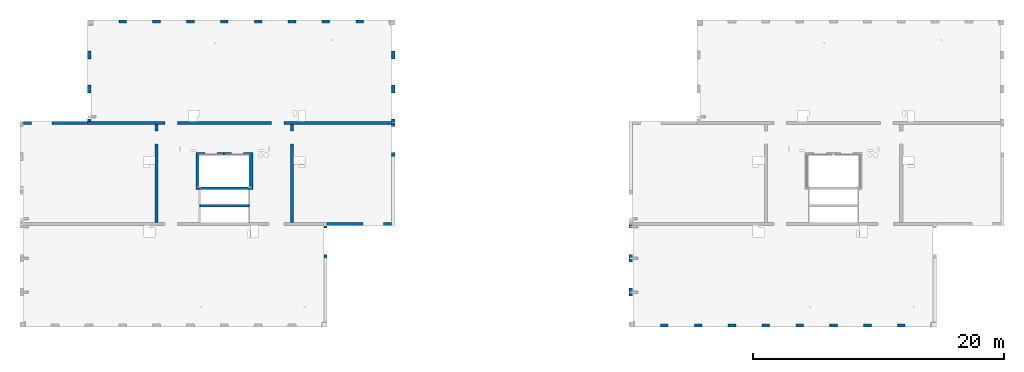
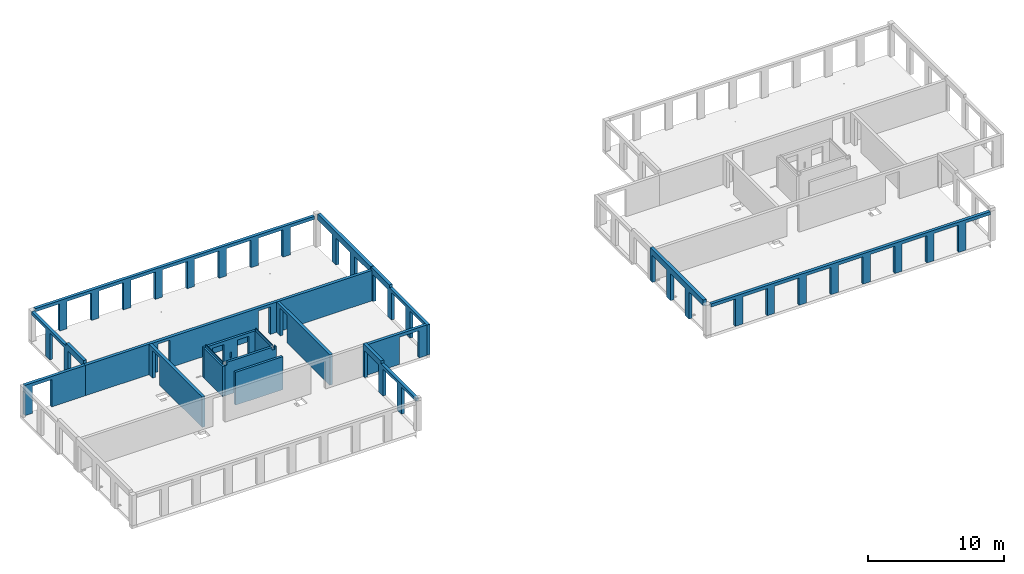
# One storey, part 3 of 8: 19 walls, 47 openings.
"""IFC2X3 building model written with IfcOpenShell, lengths in millimetres."""

from ifc_helpers import new_model, entity, si_unit, converted_unit, derived_unit, direction, frame, frame_2d, origin, origin_2d_with_axis, place, context, subcontext, project, spatial, rectangle, extrude, material, layer, layer_set, layer_usage, type_object, element, save


model = new_model("IFC2X3")

# Units and contexts
model_context = context("Model", 3, precision=0.01, world=origin(), true_north=direction((6.12303176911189e-17, 1.0)))
body_context = subcontext(model_context, "Body", "Model", "MODEL_VIEW")
ifc_project = project(units=[si_unit("LENGTHUNIT", "METRE", prefix="MILLI"), si_unit("AREAUNIT", "SQUARE_METRE"), si_unit("VOLUMEUNIT", "CUBIC_METRE"), converted_unit("PLANEANGLEUNIT", "DEGREE", entity("IfcRatioMeasure", 0.0174532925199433), si_unit("PLANEANGLEUNIT", "RADIAN"), dimensions=[0, 0, 0, 0, 0, 0, 0]), si_unit("MASSUNIT", "GRAM", prefix="KILO"), derived_unit("MASSDENSITYUNIT", [(si_unit("MASSUNIT", "GRAM", prefix="KILO"), 1), (si_unit("LENGTHUNIT", "METRE"), -3)]), si_unit("TIMEUNIT", "SECOND"), si_unit("FREQUENCYUNIT", "HERTZ"), si_unit("THERMODYNAMICTEMPERATUREUNIT", "DEGREE_CELSIUS"), derived_unit("THERMALTRANSMITTANCEUNIT", [(si_unit("MASSUNIT", "GRAM", prefix="KILO"), 1), (si_unit("THERMODYNAMICTEMPERATUREUNIT", "KELVIN"), -1), (si_unit("TIMEUNIT", "SECOND"), -3)]), derived_unit("VOLUMETRICFLOWRATEUNIT", [(si_unit("LENGTHUNIT", "METRE"), 3), (si_unit("TIMEUNIT", "SECOND"), -1)]), si_unit("ELECTRICCURRENTUNIT", "AMPERE"), si_unit("ELECTRICVOLTAGEUNIT", "VOLT"), si_unit("POWERUNIT", "WATT"), si_unit("FORCEUNIT", "NEWTON", prefix="KILO"), si_unit("ILLUMINANCEUNIT", "LUX"), si_unit("LUMINOUSFLUXUNIT", "LUMEN"), si_unit("LUMINOUSINTENSITYUNIT", "CANDELA"), derived_unit("USERDEFINED", [(si_unit("MASSUNIT", "GRAM", prefix="KILO"), -1), (si_unit("LENGTHUNIT", "METRE"), -2), (si_unit("TIMEUNIT", "SECOND"), 3), (si_unit("LUMINOUSFLUXUNIT", "LUMEN"), 1)]), derived_unit("LINEARVELOCITYUNIT", [(si_unit("LENGTHUNIT", "METRE"), 1), (si_unit("TIMEUNIT", "SECOND"), -1)]), si_unit("PRESSUREUNIT", "PASCAL"), derived_unit("USERDEFINED", [(si_unit("LENGTHUNIT", "METRE"), -2), (si_unit("MASSUNIT", "GRAM", prefix="KILO"), 1), (si_unit("TIMEUNIT", "SECOND"), -2)])], contexts=[model_context])

# Site, building, storey
site_placement = place(None, origin())
site = spatial("IfcSite", under=ifc_project, at=site_placement, Name="Default", CompositionType="ELEMENT")
building_placement = place(site_placement, origin())
building = spatial("IfcBuilding", under=site, at=building_placement, Name="niet gebruiken", CompositionType="ELEMENT")
storey_placement = place(building_placement, frame((0.0, 0.0, 51210.0)))
storey = spatial("IfcBuildingStorey", under=building, at=storey_placement, Name="17 zeventiende verdieping", CompositionType="ELEMENT", Elevation=51210.0)

# Wall, opening
ifc_material_1 = material(Name="NLRS_f2_beton ihwg")
ifc_layer_1 = layer(ifc_material_1, 250.0)
ifc_layer_set_1 = layer_set([ifc_layer_1], Name="Basic Wall:NLRS_22.21_WA_beton ihwg d=250_gen")
ifc_layer_usage_1 = layer_usage(ifc_layer_set_1, "AXIS2", "NEGATIVE", 125.0)
wall_type_1 = type_object("IfcWallType", Name="Basic Wall:NLRS_22.21_WA_beton ihwg d=250_gen", PredefinedType="STANDARD", material=ifc_layer_set_1)
wall_1_placement = place(storey_placement, frame((27170.0, 45031.0, -90.0)))
wall_1 = element("IfcWallStandardCase", 1, at=wall_1_placement, inside=storey, type_object=wall_type_1, material=ifc_layer_usage_1, Name="Basic Wall:NLRS_22.21_WA_beton ihwg d=250_gen", ObjectType="Basic Wall:NLRS_22.21_WA_beton ihwg d=250_gen", context=body_context, shape_type="SweptSolid", body=[
    extrude(rectangle(XDim=5130.0, YDim=249.999999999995, at=frame_2d((2565.0, 0.0), x_axis=(-1.0, 0.0))), origin(), (0.0, 0.0, 1.0), 2719.99999999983),
])
opening_1_placement = place(wall_1_placement, origin())
element("IfcOpeningElement", 2, at=opening_1_placement, cuts=wall_1, Name="Basic Wall:NLRS_22.21_WA_beton ihwg d=250_gen", ObjectType="Opening", context=body_context, shape_type="SweptSolid", body=[
    extrude(rectangle(XDim=2440.0, YDim=1640.0, at=origin_2d_with_axis()), frame((1460.0, -1649.0, 1220.0), z_axis=(0.0, 1.0, 0.0), x_axis=(0.0, 0.0, 1.0)), (0.0, 0.0, 1.0), 3048.0),
])

ifc_layer_usage_2 = layer_usage(ifc_layer_set_1, "AXIS2", "NEGATIVE", 125.0)
wall_2_placement = place(storey_placement, frame((37800.0, 44906.0, -90.0), z_axis=(0.0, 0.0, 1.0), x_axis=(0.0, -1.0, 0.0)))
wall_2 = element("IfcWallStandardCase", 3, at=wall_2_placement, inside=storey, type_object=wall_type_1, material=ifc_layer_usage_2, Name="Basic Wall:NLRS_22.21_WA_beton ihwg d=250_gen", ObjectType="Basic Wall:NLRS_22.21_WA_beton ihwg d=250_gen", context=body_context, shape_type="SweptSolid", body=[
    extrude(rectangle(XDim=7799.99999999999, YDim=250.000000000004, at=frame_2d((3900.0, 0.0), x_axis=(-1.0, 0.0))), origin(), (0.0, 0.0, 1.0), 2719.99999999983),
])
opening_2_placement = place(wall_2_placement, origin())
element("IfcOpeningElement", 4, at=opening_2_placement, cuts=wall_2, Name="Basic Wall:NLRS_22.21_WA_beton ihwg d=250_gen", ObjectType="Opening", context=body_context, shape_type="SweptSolid", body=[
    extrude(rectangle(XDim=2470.0, YDim=1006.0, at=frame_2d((4.43378667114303e-12, 0.0), x_axis=(1.0, 0.0))), frame((1027.0, -1649.0, 1235.0), z_axis=(0.0, 1.0, 0.0), x_axis=(0.0, 0.0, 1.0)), (0.0, 0.0, 1.0), 3048.0),
])

ifc_layer_usage_3 = layer_usage(ifc_layer_set_1, "AXIS2", "NEGATIVE", 125.0)
wall_3_placement = place(storey_placement, frame((48600.0, 44906.0, -90.0), z_axis=(0.0, 0.0, 1.0), x_axis=(0.0, -1.0, 0.0)))
wall_3 = element("IfcWallStandardCase", 5, at=wall_3_placement, inside=storey, type_object=wall_type_1, material=ifc_layer_usage_3, Name="Basic Wall:NLRS_22.21_WA_beton ihwg d=250_gen", ObjectType="Basic Wall:NLRS_22.21_WA_beton ihwg d=250_gen", context=body_context, shape_type="SweptSolid", body=[
    extrude(rectangle(XDim=7799.99999999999, YDim=249.999999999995, at=frame_2d((3900.0, 0.0), x_axis=(-1.0, 0.0))), origin(), (0.0, 0.0, 1.0), 2719.99999999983),
])
opening_3_placement = place(wall_3_placement, origin())
element("IfcOpeningElement", 6, at=opening_3_placement, cuts=wall_3, Name="Basic Wall:NLRS_22.21_WA_beton ihwg d=250_gen", ObjectType="Opening", context=body_context, shape_type="SweptSolid", body=[
    extrude(rectangle(XDim=2470.0, YDim=1006.0, at=frame_2d((-4.43378667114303e-12, 0.0), x_axis=(1.0, 0.0))), frame((1027.0, -1649.0, 1235.0), z_axis=(0.0, 1.0, 0.0), x_axis=(0.0, 0.0, 1.0)), (0.0, 0.0, 1.0), 3048.0),
])

# Wall, openings
ifc_layer_usage_4 = layer_usage(ifc_layer_set_1, "AXIS2", "NEGATIVE", 125.0)
wall_4_placement = place(storey_placement, frame((32300.0, 45031.0, -90.0)))
wall_4 = element("IfcWallStandardCase", 7, at=wall_4_placement, inside=storey, type_object=wall_type_1, material=ifc_layer_usage_4, Name="Basic Wall:NLRS_22.21_WA_beton ihwg d=250_gen", ObjectType="Basic Wall:NLRS_22.21_WA_beton ihwg d=250_gen", context=body_context, shape_type="SweptSolid", body=[
    extrude(rectangle(XDim=24250.0, YDim=249.999999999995, at=frame_2d((12125.0, 0.0), x_axis=(-1.0, 0.0))), origin(), (0.0, 0.0, 1.0), 2719.99999999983),
])
opening_4_placement = place(wall_4_placement, origin())
element("IfcOpeningElement", 8, at=opening_4_placement, cuts=wall_4, Name="Basic Wall:NLRS_22.21_WA_beton ihwg d=250_gen", ObjectType="Opening", context=body_context, shape_type="SweptSolid", body=[
    extrude(rectangle(XDim=2470.0, YDim=1006.0, at=frame_2d((4.43378667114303e-12, 0.0), x_axis=(1.0, 0.0))), frame((15148.0, -1649.0, 1235.0), z_axis=(0.0, 1.0, 0.0), x_axis=(0.0, 0.0, 1.0)), (0.0, 0.0, 1.0), 3048.0),
])
opening_5_placement = place(wall_4_placement, origin())
element("IfcOpeningElement", 9, at=opening_5_placement, cuts=wall_4, Name="Basic Wall:NLRS_22.21_WA_beton ihwg d=250_gen", ObjectType="Opening", context=body_context, shape_type="SweptSolid", body=[
    extrude(rectangle(XDim=2470.0, YDim=1006.0, at=frame_2d((4.43378667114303e-12, 2.1600499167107e-12), x_axis=(1.0, 0.0))), frame((6652.0, -1649.0, 1235.0), z_axis=(0.0, 1.0, 0.0), x_axis=(0.0, 0.0, 1.0)), (0.0, 0.0, 1.0), 3048.0),
])

# Wall, opening
ifc_layer_usage_5 = layer_usage(ifc_layer_set_1, "AXIS2", "NEGATIVE", 125.0)
wall_5_placement = place(storey_placement, frame((51400.0, 36981.0, -90.0)))
wall_5 = element("IfcWallStandardCase", 10, at=wall_5_placement, inside=storey, type_object=wall_type_1, material=ifc_layer_usage_5, Name="Basic Wall:NLRS_22.21_WA_beton ihwg d=250_gen", ObjectType="Basic Wall:NLRS_22.21_WA_beton ihwg d=250_gen", context=body_context, shape_type="SweptSolid", body=[
    extrude(rectangle(XDim=5150.0, YDim=250.000000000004, at=frame_2d((2575.0, 0.0), x_axis=(-1.0, 0.0))), origin(), (0.0, 0.0, 1.0), 2719.99999999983),
])
opening_6_placement = place(wall_5_placement, origin())
element("IfcOpeningElement", 11, at=opening_6_placement, cuts=wall_5, Name="Basic Wall:NLRS_22.21_WA_beton ihwg d=250_gen", ObjectType="Opening", context=body_context, shape_type="SweptSolid", body=[
    extrude(rectangle(XDim=2440.0, YDim=1640.0, at=frame_2d((-4.37694325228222e-12, 0.0), x_axis=(0.0, 1.0))), frame((3670.0, -1399.0, 1220.0), z_axis=(0.0, 1.0, 0.0), x_axis=(-1.0, 0.0, 0.0)), (0.0, 0.0, 1.0), 3048.0),
])

# Wall, openings
ifc_material_2 = material(Name="NLRS_f2_beton prefab")
ifc_layer_2 = layer(ifc_material_2, 250.0)
ifc_layer_set_2 = layer_set([ifc_layer_2], Name="Basic Wall:NLRS_21.21_WA_beton prefab d=250_gen")
ifc_layer_usage_6 = layer_usage(ifc_layer_set_2, "AXIS2", "NEGATIVE", 125.0)
wall_type_2 = type_object("IfcWallType", Name="Basic Wall:NLRS_21.21_WA_beton prefab d=250_gen", PredefinedType="STANDARD", material=ifc_layer_set_2)
wall_6_placement = place(storey_placement, frame((32425.0, 52846.0, -70.0), z_axis=(0.0, 0.0, 1.0), x_axis=(0.0, -1.0, 0.0)))
wall_6 = element("IfcWallStandardCase", 12, at=wall_6_placement, inside=storey, type_object=wall_type_2, material=ifc_layer_usage_6, Name="Basic Wall:NLRS_21.21_WA_beton prefab d=250_gen", ObjectType="Basic Wall:NLRS_21.21_WA_beton prefab d=250_gen", context=body_context, shape_type="SweptSolid", body=[
    extrude(rectangle(XDim=7670.00000000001, YDim=250.000000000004, at=frame_2d((3835.0, 0.0), x_axis=(-1.0, 0.0))), origin(), (0.0, 0.0, 1.0), 2949.99999999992),
])
opening_7_placement = place(wall_6_placement, origin())
element("IfcOpeningElement", 13, at=opening_7_placement, cuts=wall_6, Name="Basic Wall:NLRS_21.21_WA_beton prefab d=250_gen", ObjectType="Opening", context=body_context, shape_type="SweptSolid", body=[
    extrude(rectangle(XDim=2420.0, YDim=2080.0, at=frame_2d((0.0, 0.0), x_axis=(0.0, 1.0))), frame((1040.0, -1399.0, 1210.0), z_axis=(0.0, 1.0, 0.0), x_axis=(-1.0, 0.0, 0.0)), (0.0, 0.0, 1.0), 3048.0),
])
opening_8_placement = place(wall_6_placement, origin())
element("IfcOpeningElement", 14, at=opening_8_placement, cuts=wall_6, Name="Basic Wall:NLRS_21.21_WA_beton prefab d=250_gen", ObjectType="Opening", context=body_context, shape_type="SweptSolid", body=[
    extrude(rectangle(XDim=2420.0, YDim=2080.0, at=frame_2d((0.0, 0.0), x_axis=(0.0, 1.0))), frame((3740.0, -1399.0, 1210.0), z_axis=(0.0, 1.0, 0.0), x_axis=(-1.0, 0.0, 0.0)), (0.0, 0.0, 1.0), 3048.0),
])
opening_9_placement = place(wall_6_placement, origin())
element("IfcOpeningElement", 15, at=opening_9_placement, cuts=wall_6, Name="Basic Wall:NLRS_21.21_WA_beton prefab d=250_gen", ObjectType="Opening", context=body_context, shape_type="SweptSolid", body=[
    extrude(rectangle(XDim=2420.0, YDim=2080.0, at=frame_2d((0.0, 0.0), x_axis=(0.0, 1.0))), frame((6440.0, -1399.0, 1210.0), z_axis=(0.0, 1.0, 0.0), x_axis=(-1.0, 0.0, 0.0)), (0.0, 0.0, 1.0), 3048.0),
])
opening_10_placement = place(wall_6_placement, origin())
element("IfcOpeningElement", 16, at=opening_10_placement, cuts=wall_6, Name="Basic Wall:NLRS_21.21_WA_beton prefab d=250_gen", ObjectType="Opening", context=body_context, shape_type="SweptSolid", body=[
    extrude(rectangle(XDim=250.000000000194, YDim=5089.99999999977, at=frame_2d((4.32009983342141e-12, -4.32720526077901e-12), x_axis=(0.0, 1.0))), frame((2545.0, 125.0, 2825.0), z_axis=(0.0, -1.0, 0.0), x_axis=(-1.0, 0.0, 0.0)), (0.0, 0.0, 1.0), 250.0),
])

ifc_layer_usage_7 = layer_usage(ifc_layer_set_2, "AXIS2", "NEGATIVE", 125.0)
wall_7_placement = place(storey_placement, frame((56675.0, 45046.0, -70.0), z_axis=(0.0, 0.0, 1.0), x_axis=(0.0, -1.0, 0.0)))
wall_7 = element("IfcWallStandardCase", 17, at=wall_7_placement, inside=storey, type_object=wall_type_2, material=ifc_layer_usage_7, Name="Basic Wall:NLRS_21.21_WA_beton prefab d=250_gen", ObjectType="Basic Wall:NLRS_21.21_WA_beton prefab d=250_gen", context=body_context, shape_type="SweptSolid", body=[
    extrude(rectangle(XDim=8189.99999999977, YDim=249.999999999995, at=frame_2d((4094.99999999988, 0.0), x_axis=(-1.0, 0.0))), origin(), (0.0, 0.0, 1.0), 2949.99999999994),
])
opening_11_placement = place(wall_7_placement, origin())
element("IfcOpeningElement", 18, at=opening_11_placement, cuts=wall_7, Name="Basic Wall:NLRS_21.21_WA_beton prefab d=250_gen", ObjectType="Opening", context=body_context, shape_type="SweptSolid", body=[
    extrude(rectangle(XDim=2420.0, YDim=2080.0, at=frame_2d((0.0, 0.0), x_axis=(0.0, 1.0))), frame((1340.0, -1399.0, 1210.0), z_axis=(0.0, 1.0, 0.0), x_axis=(-1.0, 0.0, 0.0)), (0.0, 0.0, 1.0), 3048.0),
])
opening_12_placement = place(wall_7_placement, origin())
element("IfcOpeningElement", 19, at=opening_12_placement, cuts=wall_7, Name="Basic Wall:NLRS_21.21_WA_beton prefab d=250_gen", ObjectType="Opening", context=body_context, shape_type="SweptSolid", body=[
    extrude(rectangle(XDim=2420.0, YDim=2080.0, at=frame_2d((0.0, 0.0), x_axis=(0.0, 1.0))), frame((4040.0, -1399.0, 1210.0), z_axis=(0.0, 1.0, 0.0), x_axis=(-1.0, 0.0, 0.0)), (0.0, 0.0, 1.0), 3048.0),
])
opening_13_placement = place(wall_7_placement, origin())
element("IfcOpeningElement", 20, at=opening_13_placement, cuts=wall_7, Name="Basic Wall:NLRS_21.21_WA_beton prefab d=250_gen", ObjectType="Opening", context=body_context, shape_type="SweptSolid", body=[
    extrude(rectangle(XDim=2420.0, YDim=2080.0, at=frame_2d((0.0, 0.0), x_axis=(0.0, 1.0))), frame((6740.0, -1399.0, 1210.0), z_axis=(0.0, 1.0, 0.0), x_axis=(-1.0, 0.0, 0.0)), (0.0, 0.0, 1.0), 3048.0),
])
opening_14_placement = place(wall_7_placement, origin())
element("IfcOpeningElement", 21, at=opening_14_placement, cuts=wall_7, Name="Basic Wall:NLRS_21.21_WA_beton prefab d=250_gen", ObjectType="Opening", context=body_context, shape_type="SweptSolid", body=[
    extrude(rectangle(XDim=249.999999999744, YDim=5500.0000000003, at=frame_2d((-4.33431068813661e-12, -4.32009983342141e-12), x_axis=(1.0, 0.0))), frame((5440.0, 125.0, 2825.0), z_axis=(0.0, -1.0, 0.0), x_axis=(0.0, 0.0, 1.0)), (0.0, 0.0, 1.0), 250.0),
])

ifc_layer_usage_8 = layer_usage(ifc_layer_set_2, "AXIS2", "NEGATIVE", 125.0)
wall_8_placement = place(storey_placement, frame((51275.0, 29166.0, -70.0), z_axis=(0.0, 0.0, 1.0), x_axis=(0.0, 1.0, 0.0)))
wall_8 = element("IfcWallStandardCase", 22, at=wall_8_placement, inside=storey, type_object=wall_type_2, material=ifc_layer_usage_8, Name="Basic Wall:NLRS_21.21_WA_beton prefab d=250_gen", ObjectType="Basic Wall:NLRS_21.21_WA_beton prefab d=250_gen", context=body_context, shape_type="SweptSolid", body=[
    extrude(rectangle(XDim=7669.99999999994, YDim=249.999999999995, at=frame_2d((3834.99999999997, 0.0), x_axis=(-1.0, 0.0))), origin(), (0.0, 0.0, 1.0), 2949.99999999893),
])
opening_15_placement = place(wall_8_placement, origin())
element("IfcOpeningElement", 23, at=opening_15_placement, cuts=wall_8, Name="Basic Wall:NLRS_21.21_WA_beton prefab d=250_gen", ObjectType="Opening", context=body_context, shape_type="SweptSolid", body=[
    extrude(rectangle(XDim=2420.0, YDim=2080.0, at=frame_2d((-2.1600499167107e-12, 0.0), x_axis=(0.0, 1.0))), frame((1040.0, -1399.0, 1210.0), z_axis=(0.0, 1.0, 0.0), x_axis=(-1.0, 0.0, 0.0)), (0.0, 0.0, 1.0), 3048.0),
])
opening_16_placement = place(wall_8_placement, origin())
element("IfcOpeningElement", 24, at=opening_16_placement, cuts=wall_8, Name="Basic Wall:NLRS_21.21_WA_beton prefab d=250_gen", ObjectType="Opening", context=body_context, shape_type="SweptSolid", body=[
    extrude(rectangle(XDim=2420.0, YDim=2080.0, at=frame_2d((2.1600499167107e-12, 0.0), x_axis=(0.0, 1.0))), frame((6440.0, -1399.0, 1210.0), z_axis=(0.0, 1.0, 0.0), x_axis=(-1.0, 0.0, 0.0)), (0.0, 0.0, 1.0), 3048.0),
])
opening_17_placement = place(wall_8_placement, origin())
element("IfcOpeningElement", 25, at=opening_17_placement, cuts=wall_8, Name="Basic Wall:NLRS_21.21_WA_beton prefab d=250_gen", ObjectType="Opening", context=body_context, shape_type="SweptSolid", body=[
    extrude(rectangle(XDim=2420.0, YDim=2080.0, at=frame_2d((2.1600499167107e-12, 0.0), x_axis=(0.0, 1.0))), frame((3740.0, -1399.0, 1210.0), z_axis=(0.0, 1.0, 0.0), x_axis=(-1.0, 0.0, 0.0)), (0.0, 0.0, 1.0), 3048.0),
])
opening_18_placement = place(wall_8_placement, origin())
element("IfcOpeningElement", 26, at=opening_18_placement, cuts=wall_8, Name="Basic Wall:NLRS_21.21_WA_beton prefab d=250_gen", ObjectType="Opening", context=body_context, shape_type="SweptSolid", body=[
    extrude(rectangle(XDim=249.999999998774, YDim=5090.00000000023, at=frame_2d((0.0, 4.32720526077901e-12), x_axis=(0.0, 1.0))), frame((2545.0, 125.0, 2825.0), z_axis=(0.0, -1.0, 0.0), x_axis=(-1.0, 0.0, 0.0)), (0.0, 0.0, 1.0), 250.0),
])

# Wall
ifc_layer_3 = layer(ifc_material_2, 200.0)
ifc_layer_set_3 = layer_set([ifc_layer_3], Name="Basic Wall:NLRS_21.21_WA_beton prefab d=200_gen")
ifc_layer_usage_9 = layer_usage(ifc_layer_set_3, "AXIS2", "NEGATIVE", 100.0)
wall_type_3 = type_object("IfcWallType", Name="Basic Wall:NLRS_21.21_WA_beton prefab d=200_gen", PredefinedType="STANDARD", material=ifc_layer_set_3)
wall_9_placement = place(storey_placement, frame((41200.0, 38426.0, -70.0)))
element("IfcWallStandardCase", 27, at=wall_9_placement, inside=storey, type_object=wall_type_3, material=ifc_layer_usage_9, Name="Basic Wall:NLRS_21.21_WA_beton prefab d=200_gen", ObjectType="Basic Wall:NLRS_21.21_WA_beton prefab d=200_gen", context=body_context, shape_type="SweptSolid", body=[
    extrude(rectangle(XDim=3999.99999999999, YDim=199.999999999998, at=frame_2d((2000.0, 0.0), x_axis=(-1.0, 0.0))), origin(), (0.0, 0.0, 1.0), 2950.00000000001),
])

# Wall, openings
ifc_layer_4 = layer(ifc_material_2, 200.0)
ifc_layer_set_4 = layer_set([ifc_layer_4], Name="Basic Wall:NLRS_22.21_WA_beton prefab d=200_gen")
ifc_layer_usage_10 = layer_usage(ifc_layer_set_4, "AXIS2", "NEGATIVE", 100.0)
wall_type_4 = type_object("IfcWallType", Name="Basic Wall:NLRS_22.21_WA_beton prefab d=200_gen", PredefinedType="STANDARD", material=ifc_layer_set_4)
wall_10_placement = place(storey_placement, frame((40925.0, 42596.0, -70.0)))
wall_10 = element("IfcWallStandardCase", 28, at=wall_10_placement, inside=storey, type_object=wall_type_4, material=ifc_layer_usage_10, Name="Basic Wall:NLRS_22.21_WA_beton prefab d=200_gen", ObjectType="Basic Wall:NLRS_22.21_WA_beton prefab d=200_gen", context=body_context, shape_type="SweptSolid", body=[
    extrude(rectangle(XDim=4549.99999999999, YDim=200.000000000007, at=frame_2d((2274.99999999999, 7.8159700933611e-13), x_axis=(-1.0, 0.0))), origin(), (0.0, 0.0, 1.0), 2700.00000000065),
])
opening_19_placement = place(wall_10_placement, origin())
element("IfcOpeningElement", 29, at=opening_19_placement, cuts=wall_10, Name="Basic Wall:NLRS_22.21_WA_beton prefab d=200_gen", ObjectType="Opening", context=body_context, shape_type="SweptSolid", body=[
    extrude(rectangle(XDim=2430.0, YDim=980.000000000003, at=origin_2d_with_axis()), frame((1219.99984910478, -1624.0, 1195.0), z_axis=(0.0, 1.0, 0.0), x_axis=(0.0, 0.0, 1.0)), (0.0, 0.0, 1.0), 3048.0),
])
opening_20_placement = place(wall_10_placement, origin())
element("IfcOpeningElement", 30, at=opening_20_placement, cuts=wall_10, Name="Basic Wall:NLRS_22.21_WA_beton prefab d=200_gen", ObjectType="Opening", context=body_context, shape_type="SweptSolid", body=[
    extrude(rectangle(XDim=2430.0, YDim=980.000000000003, at=origin_2d_with_axis()), frame((3329.99984910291, -1624.0, 1195.0), z_axis=(0.0, 1.0, 0.0), x_axis=(0.0, 0.0, 1.0)), (0.0, 0.0, 1.0), 3048.0),
])
opening_21_placement = place(wall_10_placement, origin())
element("IfcOpeningElement", 31, at=opening_21_placement, cuts=wall_10, Name="Basic Wall:NLRS_22.21_WA_beton prefab d=200_gen", ObjectType="Opening", context=body_context, shape_type="SweptSolid", body=[
    extrude(rectangle(XDim=505.000000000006, YDim=135.000000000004, at=frame_2d((4.33431068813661e-12, 0.0), x_axis=(1.0, 0.0))), frame((2275.0, -1624.0, 1272.49999999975), z_axis=(0.0, 1.0, 0.0), x_axis=(0.0, 0.0, 1.0)), (0.0, 0.0, 1.0), 3048.0),
])

# Wall
ifc_layer_usage_11 = layer_usage(ifc_layer_set_4, "AXIS2", "NEGATIVE", 100.0)
wall_11_placement = place(storey_placement, frame((41025.0, 42496.0, -70.0), z_axis=(0.0, 0.0, 1.0), x_axis=(0.0, -1.0, 0.0)))
element("IfcWallStandardCase", 32, at=wall_11_placement, inside=storey, type_object=wall_type_4, material=ifc_layer_usage_11, Name="Basic Wall:NLRS_22.21_WA_beton prefab d=200_gen", ObjectType="Basic Wall:NLRS_22.21_WA_beton prefab d=200_gen", context=body_context, shape_type="SweptSolid", body=[
    extrude(rectangle(XDim=2749.99999999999, YDim=200.000000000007, at=frame_2d((1375.0, 0.0), x_axis=(-1.0, 0.0))), origin(), (0.0, 0.0, 1.0), 2699.99999999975),
])

# Wall, openings
ifc_layer_usage_12 = layer_usage(ifc_layer_set_4, "AXIS2", "NEGATIVE", 100.0)
wall_12_placement = place(storey_placement, frame((45475.0, 39846.0, -70.0), z_axis=(0.0, 0.0, 1.0), x_axis=(-1.0, 0.0, 0.0)))
wall_12 = element("IfcWallStandardCase", 33, at=wall_12_placement, inside=storey, type_object=wall_type_4, material=ifc_layer_usage_12, Name="Basic Wall:NLRS_22.21_WA_beton prefab d=200_gen", ObjectType="Basic Wall:NLRS_22.21_WA_beton prefab d=200_gen", context=body_context, shape_type="SweptSolid", body=[
    extrude(rectangle(XDim=4349.99999999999, YDim=200.000000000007, at=frame_2d((2174.99999999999, 0.0), x_axis=(-1.0, 0.0))), origin(), (0.0, 0.0, 1.0), 2949.99999999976),
])
opening_22_placement = place(wall_12_placement, origin())
element("IfcOpeningElement", 34, at=opening_22_placement, cuts=wall_12, Name="Basic Wall:NLRS_22.21_WA_beton prefab d=200_gen", ObjectType="Opening", context=body_context, shape_type="SweptSolid", body=[
    extrude(rectangle(XDim=249.999999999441, YDim=274.9999671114, at=frame_2d((-8.66862137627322e-12, -4.33431068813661e-12), x_axis=(1.0, 0.0))), frame((4312.50001644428, 100.0, 2825.0), z_axis=(0.0, -1.0, 0.0), x_axis=(0.0, 0.0, 1.0)), (0.0, 0.0, 1.0), 200.0),
])
opening_23_placement = place(wall_12_placement, origin())
element("IfcOpeningElement", 35, at=opening_23_placement, cuts=wall_12, Name="Basic Wall:NLRS_22.21_WA_beton prefab d=200_gen", ObjectType="Opening", context=body_context, shape_type="SweptSolid", body=[
    extrude(rectangle(XDim=249.999999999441, YDim=274.999967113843, at=frame_2d((-4.32009983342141e-12, 8.66862137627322e-12), x_axis=(0.0, 1.0))), frame((237.499983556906, 100.0, 2825.0), z_axis=(0.0, -1.0, 0.0), x_axis=(-1.0, 0.0, 0.0)), (0.0, 0.0, 1.0), 200.0),
])

# Wall
ifc_layer_usage_13 = layer_usage(ifc_layer_set_4, "AXIS2", "NEGATIVE", 100.0)
wall_13_placement = place(storey_placement, frame((45375.0, 39946.0, -70.0), z_axis=(0.0, 0.0, 1.0), x_axis=(0.0, 1.0, 0.0)))
element("IfcWallStandardCase", 36, at=wall_13_placement, inside=storey, type_object=wall_type_4, material=ifc_layer_usage_13, Name="Basic Wall:NLRS_22.21_WA_beton prefab d=200_gen", ObjectType="Basic Wall:NLRS_22.21_WA_beton prefab d=200_gen", context=body_context, shape_type="SweptSolid", body=[
    extrude(rectangle(XDim=2549.99999999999, YDim=200.000000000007, at=frame_2d((1275.0, 0.0), x_axis=(-1.0, 0.0))), origin(), (0.0, 0.0, 1.0), 2699.99999999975),
])

# Wall, openings
ifc_layer_5 = layer(ifc_material_1, 250.0)
ifc_layer_set_5 = layer_set([ifc_layer_5], Name="Basic Wall:NLRS_21.21_WA_beton ihwg d=250_gen")
ifc_layer_usage_14 = layer_usage(ifc_layer_set_5, "AXIS2", "NEGATIVE", 125.0)
wall_type_5 = type_object("IfcWallType", Name="Basic Wall:NLRS_21.21_WA_beton ihwg d=250_gen", PredefinedType="STANDARD", material=ifc_layer_set_5)
wall_14_placement = place(storey_placement, frame((75930.0, 28881.0, -90.0)))
wall_14 = element("IfcWallStandardCase", 37, at=wall_14_placement, inside=storey, type_object=wall_type_5, material=ifc_layer_usage_14, Name="Basic Wall:NLRS_21.21_WA_beton ihwg d=250_gen", ObjectType="Basic Wall:NLRS_21.21_WA_beton ihwg d=250_gen", context=body_context, shape_type="SweptSolid", body=[
    extrude(rectangle(XDim=23640.0000000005, YDim=250.000000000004, at=frame_2d((11820.0000000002, -8.66862137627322e-13), x_axis=(-1.0, 0.0))), origin(), (0.0, 0.0, 1.0), 2720.00000000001),
])
opening_24_placement = place(wall_14_placement, origin())
element("IfcOpeningElement", 38, at=opening_24_placement, cuts=wall_14, Name="Basic Wall:NLRS_21.21_WA_beton ihwg d=250_gen", ObjectType="Opening", context=body_context, shape_type="SweptSolid", body=[
    extrude(rectangle(XDim=2440.0, YDim=2080.0, at=frame_2d((8.64019966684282e-12, 0.0), x_axis=(0.0, 1.0))), frame((22620.0, -1399.0, 1220.0), z_axis=(0.0, 1.0, 0.0), x_axis=(-1.0, 0.0, 0.0)), (0.0, 0.0, 1.0), 3048.0),
])
opening_25_placement = place(wall_14_placement, origin())
element("IfcOpeningElement", 39, at=opening_25_placement, cuts=wall_14, Name="Basic Wall:NLRS_21.21_WA_beton ihwg d=250_gen", ObjectType="Opening", context=body_context, shape_type="SweptSolid", body=[
    extrude(rectangle(XDim=2440.0, YDim=2080.0, at=frame_2d((8.64019966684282e-12, 0.0), x_axis=(0.0, 1.0))), frame((19920.0, -1399.0, 1220.0), z_axis=(0.0, 1.0, 0.0), x_axis=(-1.0, 0.0, 0.0)), (0.0, 0.0, 1.0), 3048.0),
])
opening_26_placement = place(wall_14_placement, origin())
element("IfcOpeningElement", 40, at=opening_26_placement, cuts=wall_14, Name="Basic Wall:NLRS_21.21_WA_beton ihwg d=250_gen", ObjectType="Opening", context=body_context, shape_type="SweptSolid", body=[
    extrude(rectangle(XDim=2440.0, YDim=2080.0, at=frame_2d((8.64019966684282e-12, 0.0), x_axis=(0.0, 1.0))), frame((17220.0, -1399.0, 1220.0), z_axis=(0.0, 1.0, 0.0), x_axis=(-1.0, 0.0, 0.0)), (0.0, 0.0, 1.0), 3048.0),
])
opening_27_placement = place(wall_14_placement, origin())
element("IfcOpeningElement", 41, at=opening_27_placement, cuts=wall_14, Name="Basic Wall:NLRS_21.21_WA_beton ihwg d=250_gen", ObjectType="Opening", context=body_context, shape_type="SweptSolid", body=[
    extrude(rectangle(XDim=2440.0, YDim=2080.0, at=frame_2d((-8.64019966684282e-12, 0.0), x_axis=(0.0, 1.0))), frame((14520.0, -1399.0, 1220.0), z_axis=(0.0, 1.0, 0.0), x_axis=(-1.0, 0.0, 0.0)), (0.0, 0.0, 1.0), 3048.0),
])
opening_28_placement = place(wall_14_placement, origin())
element("IfcOpeningElement", 42, at=opening_28_placement, cuts=wall_14, Name="Basic Wall:NLRS_21.21_WA_beton ihwg d=250_gen", ObjectType="Opening", context=body_context, shape_type="SweptSolid", body=[
    extrude(rectangle(XDim=2440.0, YDim=2080.0, at=frame_2d((8.64019966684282e-12, 0.0), x_axis=(0.0, 1.0))), frame((11820.0, -1399.0, 1220.0), z_axis=(0.0, 1.0, 0.0), x_axis=(-1.0, 0.0, 0.0)), (0.0, 0.0, 1.0), 3048.0),
])
opening_29_placement = place(wall_14_placement, origin())
element("IfcOpeningElement", 43, at=opening_29_placement, cuts=wall_14, Name="Basic Wall:NLRS_21.21_WA_beton ihwg d=250_gen", ObjectType="Opening", context=body_context, shape_type="SweptSolid", body=[
    extrude(rectangle(XDim=2440.0, YDim=2080.0, at=frame_2d((8.64019966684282e-12, 0.0), x_axis=(0.0, 1.0))), frame((9120.0, -1399.0, 1220.0), z_axis=(0.0, 1.0, 0.0), x_axis=(-1.0, 0.0, 0.0)), (0.0, 0.0, 1.0), 3048.0),
])
opening_30_placement = place(wall_14_placement, origin())
element("IfcOpeningElement", 44, at=opening_30_placement, cuts=wall_14, Name="Basic Wall:NLRS_21.21_WA_beton ihwg d=250_gen", ObjectType="Opening", context=body_context, shape_type="SweptSolid", body=[
    extrude(rectangle(XDim=2440.0, YDim=2080.0, at=frame_2d((-8.64019966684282e-12, 0.0), x_axis=(0.0, 1.0))), frame((6420.0, -1399.0, 1220.0), z_axis=(0.0, 1.0, 0.0), x_axis=(-1.0, 0.0, 0.0)), (0.0, 0.0, 1.0), 3048.0),
])
opening_31_placement = place(wall_14_placement, origin())
element("IfcOpeningElement", 45, at=opening_31_placement, cuts=wall_14, Name="Basic Wall:NLRS_21.21_WA_beton ihwg d=250_gen", ObjectType="Opening", context=body_context, shape_type="SweptSolid", body=[
    extrude(rectangle(XDim=2440.0, YDim=2080.0, at=frame_2d((-8.64019966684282e-12, 0.0), x_axis=(0.0, 1.0))), frame((3720.0, -1399.0, 1220.0), z_axis=(0.0, 1.0, 0.0), x_axis=(-1.0, 0.0, 0.0)), (0.0, 0.0, 1.0), 3048.0),
])
opening_32_placement = place(wall_14_placement, origin())
element("IfcOpeningElement", 46, at=opening_32_placement, cuts=wall_14, Name="Basic Wall:NLRS_21.21_WA_beton ihwg d=250_gen", ObjectType="Opening", context=body_context, shape_type="SweptSolid", body=[
    extrude(rectangle(XDim=2440.0, YDim=2080.0, at=frame_2d((0.0, 0.0), x_axis=(0.0, 1.0))), frame((1020.0, -1399.0, 1220.0), z_axis=(0.0, 1.0, 0.0), x_axis=(-1.0, 0.0, 0.0)), (0.0, 0.0, 1.0), 3048.0),
])

ifc_layer_usage_15 = layer_usage(ifc_layer_set_5, "AXIS2", "NEGATIVE", 125.0)
wall_15_placement = place(storey_placement, frame((56370.0, 53131.0, -90.0), z_axis=(0.0, 0.0, 1.0), x_axis=(-1.0, 0.0, 0.0)))
wall_15 = element("IfcWallStandardCase", 47, at=wall_15_placement, inside=storey, type_object=wall_type_5, material=ifc_layer_usage_15, Name="Basic Wall:NLRS_21.21_WA_beton ihwg d=250_gen", ObjectType="Basic Wall:NLRS_21.21_WA_beton ihwg d=250_gen", context=body_context, shape_type="SweptSolid", body=[
    extrude(rectangle(XDim=23640.0000000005, YDim=249.999999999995, at=frame_2d((11820.0000000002, 5.82645043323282e-13), x_axis=(-1.0, 0.0))), origin(), (0.0, 0.0, 1.0), 2720.00000000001),
])
opening_33_placement = place(wall_15_placement, origin())
element("IfcOpeningElement", 48, at=opening_33_placement, cuts=wall_15, Name="Basic Wall:NLRS_21.21_WA_beton ihwg d=250_gen", ObjectType="Opening", context=body_context, shape_type="SweptSolid", body=[
    extrude(rectangle(XDim=2440.0, YDim=2080.0, at=frame_2d((-2.1600499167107e-12, 0.0), x_axis=(0.0, 1.0))), frame((22620.0, -1399.0, 1220.0), z_axis=(0.0, 1.0, 0.0), x_axis=(-1.0, 0.0, 0.0)), (0.0, 0.0, 1.0), 3048.0),
])
opening_34_placement = place(wall_15_placement, origin())
element("IfcOpeningElement", 49, at=opening_34_placement, cuts=wall_15, Name="Basic Wall:NLRS_21.21_WA_beton ihwg d=250_gen", ObjectType="Opening", context=body_context, shape_type="SweptSolid", body=[
    extrude(rectangle(XDim=2440.0, YDim=2080.0, at=frame_2d((2.1600499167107e-12, 0.0), x_axis=(0.0, 1.0))), frame((19920.0, -1399.0, 1220.0), z_axis=(0.0, 1.0, 0.0), x_axis=(-1.0, 0.0, 0.0)), (0.0, 0.0, 1.0), 3048.0),
])
opening_35_placement = place(wall_15_placement, origin())
element("IfcOpeningElement", 50, at=opening_35_placement, cuts=wall_15, Name="Basic Wall:NLRS_21.21_WA_beton ihwg d=250_gen", ObjectType="Opening", context=body_context, shape_type="SweptSolid", body=[
    extrude(rectangle(XDim=2440.0, YDim=2079.99999999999, at=frame_2d((2.1600499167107e-12, 0.0), x_axis=(0.0, 1.0))), frame((17220.0, -1399.0, 1220.0), z_axis=(0.0, 1.0, 0.0), x_axis=(-1.0, 0.0, 0.0)), (0.0, 0.0, 1.0), 3048.0),
])
opening_36_placement = place(wall_15_placement, origin())
element("IfcOpeningElement", 51, at=opening_36_placement, cuts=wall_15, Name="Basic Wall:NLRS_21.21_WA_beton ihwg d=250_gen", ObjectType="Opening", context=body_context, shape_type="SweptSolid", body=[
    extrude(rectangle(XDim=2440.0, YDim=2080.0, at=frame_2d((0.0, 0.0), x_axis=(0.0, 1.0))), frame((14520.0, -1399.0, 1220.0), z_axis=(0.0, 1.0, 0.0), x_axis=(-1.0, 0.0, 0.0)), (0.0, 0.0, 1.0), 3048.0),
])
opening_37_placement = place(wall_15_placement, origin())
element("IfcOpeningElement", 52, at=opening_37_placement, cuts=wall_15, Name="Basic Wall:NLRS_21.21_WA_beton ihwg d=250_gen", ObjectType="Opening", context=body_context, shape_type="SweptSolid", body=[
    extrude(rectangle(XDim=2440.0, YDim=2080.0, at=frame_2d((0.0, 0.0), x_axis=(0.0, 1.0))), frame((11820.0, -1399.0, 1220.0), z_axis=(0.0, 1.0, 0.0), x_axis=(-1.0, 0.0, 0.0)), (0.0, 0.0, 1.0), 3048.0),
])
opening_38_placement = place(wall_15_placement, origin())
element("IfcOpeningElement", 53, at=opening_38_placement, cuts=wall_15, Name="Basic Wall:NLRS_21.21_WA_beton ihwg d=250_gen", ObjectType="Opening", context=body_context, shape_type="SweptSolid", body=[
    extrude(rectangle(XDim=2440.0, YDim=2080.0, at=frame_2d((0.0, 0.0), x_axis=(0.0, 1.0))), frame((9120.0, -1399.0, 1220.0), z_axis=(0.0, 1.0, 0.0), x_axis=(-1.0, 0.0, 0.0)), (0.0, 0.0, 1.0), 3048.0),
])
opening_39_placement = place(wall_15_placement, origin())
element("IfcOpeningElement", 54, at=opening_39_placement, cuts=wall_15, Name="Basic Wall:NLRS_21.21_WA_beton ihwg d=250_gen", ObjectType="Opening", context=body_context, shape_type="SweptSolid", body=[
    extrude(rectangle(XDim=2440.0, YDim=2080.0, at=frame_2d((0.0, 0.0), x_axis=(0.0, 1.0))), frame((6420.0, -1399.0, 1220.0), z_axis=(0.0, 1.0, 0.0), x_axis=(-1.0, 0.0, 0.0)), (0.0, 0.0, 1.0), 3048.0),
])
opening_40_placement = place(wall_15_placement, origin())
element("IfcOpeningElement", 55, at=opening_40_placement, cuts=wall_15, Name="Basic Wall:NLRS_21.21_WA_beton ihwg d=250_gen", ObjectType="Opening", context=body_context, shape_type="SweptSolid", body=[
    extrude(rectangle(XDim=2440.0, YDim=2080.0, at=frame_2d((0.0, 0.0), x_axis=(0.0, 1.0))), frame((3720.0, -1399.0, 1220.0), z_axis=(0.0, 1.0, 0.0), x_axis=(-1.0, 0.0, 0.0)), (0.0, 0.0, 1.0), 3048.0),
])
opening_41_placement = place(wall_15_placement, origin())
element("IfcOpeningElement", 56, at=opening_41_placement, cuts=wall_15, Name="Basic Wall:NLRS_21.21_WA_beton ihwg d=250_gen", ObjectType="Opening", context=body_context, shape_type="SweptSolid", body=[
    extrude(rectangle(XDim=2440.0, YDim=2080.0, at=frame_2d((8.64019966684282e-12, 0.0), x_axis=(0.0, 1.0))), frame((1020.0, -1399.0, 1220.0), z_axis=(0.0, 1.0, 0.0), x_axis=(-1.0, 0.0, 0.0)), (0.0, 0.0, 1.0), 3048.0),
])

ifc_layer_6 = layer(ifc_material_2, 270.0)
ifc_layer_set_6 = layer_set([ifc_layer_6], Name="Basic Wall:NLRS_21.21_WA_beton prefab d=270_gen")
ifc_layer_usage_16 = layer_usage(ifc_layer_set_6, "AXIS2", "NEGATIVE", 135.0)
wall_type_6 = type_object("IfcWallType", Name="Basic Wall:NLRS_21.21_WA_beton prefab d=270_gen", PredefinedType="STANDARD", material=ifc_layer_set_6)
wall_16_placement = place(storey_placement, frame((75635.0, 36946.0, -70.0), z_axis=(0.0, 0.0, 1.0), x_axis=(0.0, -1.0, 0.0)))
wall_16 = element("IfcWallStandardCase", 57, at=wall_16_placement, inside=storey, type_object=wall_type_6, material=ifc_layer_usage_16, Name="Basic Wall:NLRS_21.21_WA_beton prefab d=270_gen", ObjectType="Basic Wall:NLRS_21.21_WA_beton prefab d=270_gen", context=body_context, shape_type="SweptSolid", body=[
    extrude(rectangle(XDim=7779.99999999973, YDim=270.000000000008, at=frame_2d((3889.99999999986, 0.0), x_axis=(-1.0, 0.0))), origin(), (0.0, 0.0, 1.0), 2949.99999999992),
])
opening_42_placement = place(wall_16_placement, origin())
element("IfcOpeningElement", 58, at=opening_42_placement, cuts=wall_16, Name="Basic Wall:NLRS_21.21_WA_beton prefab d=270_gen", ObjectType="Opening", context=body_context, shape_type="SweptSolid", body=[
    extrude(rectangle(XDim=2420.0, YDim=2080.0, at=frame_2d((-2.1600499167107e-12, 0.0), x_axis=(0.0, 1.0))), frame((1340.0, -1389.0, 1210.0), z_axis=(0.0, 1.0, 0.0), x_axis=(-1.0, 0.0, 0.0)), (0.0, 0.0, 1.0), 3048.0),
])
opening_43_placement = place(wall_16_placement, origin())
element("IfcOpeningElement", 59, at=opening_43_placement, cuts=wall_16, Name="Basic Wall:NLRS_21.21_WA_beton prefab d=270_gen", ObjectType="Opening", context=body_context, shape_type="SweptSolid", body=[
    extrude(rectangle(XDim=2420.0, YDim=2080.0, at=frame_2d((2.1600499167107e-12, 0.0), x_axis=(0.0, 1.0))), frame((4040.0, -1389.0, 1210.0), z_axis=(0.0, 1.0, 0.0), x_axis=(-1.0, 0.0, 0.0)), (0.0, 0.0, 1.0), 3048.0),
])
opening_44_placement = place(wall_16_placement, origin())
element("IfcOpeningElement", 60, at=opening_44_placement, cuts=wall_16, Name="Basic Wall:NLRS_21.21_WA_beton prefab d=270_gen", ObjectType="Opening", context=body_context, shape_type="SweptSolid", body=[
    extrude(rectangle(XDim=2420.0, YDim=2080.0, at=frame_2d((2.1600499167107e-12, 0.0), x_axis=(0.0, 1.0))), frame((6740.0, -1389.0, 1210.0), z_axis=(0.0, 1.0, 0.0), x_axis=(-1.0, 0.0, 0.0)), (0.0, 0.0, 1.0), 3048.0),
])

ifc_layer_usage_17 = layer_usage(ifc_layer_set_6, "AXIS2", "NEGATIVE", 135.0)
wall_17_placement = place(storey_placement, frame((56665.0, 52846.0, -70.0), z_axis=(0.0, 0.0, 1.0), x_axis=(0.0, -1.0, 0.0)))
wall_17 = element("IfcWallStandardCase", 61, at=wall_17_placement, inside=storey, type_object=wall_type_6, material=ifc_layer_usage_17, Name="Basic Wall:NLRS_21.21_WA_beton prefab d=270_gen", ObjectType="Basic Wall:NLRS_21.21_WA_beton prefab d=270_gen", context=body_context, shape_type="SweptSolid", body=[
    extrude(rectangle(XDim=7780.00000000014, YDim=270.000000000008, at=frame_2d((3890.00000000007, 0.0), x_axis=(-1.0, 0.0))), origin(), (0.0, 0.0, 1.0), 2949.99999999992),
])
opening_45_placement = place(wall_17_placement, origin())
element("IfcOpeningElement", 62, at=opening_45_placement, cuts=wall_17, Name="Basic Wall:NLRS_21.21_WA_beton prefab d=270_gen", ObjectType="Opening", context=body_context, shape_type="SweptSolid", body=[
    extrude(rectangle(XDim=2420.0, YDim=2080.0, at=frame_2d((8.64019966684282e-12, 0.0), x_axis=(0.0, 1.0))), frame((1040.0, -1389.0, 1210.0), z_axis=(0.0, 1.0, 0.0), x_axis=(-1.0, 0.0, 0.0)), (0.0, 0.0, 1.0), 3048.0),
])
opening_46_placement = place(wall_17_placement, origin())
element("IfcOpeningElement", 63, at=opening_46_placement, cuts=wall_17, Name="Basic Wall:NLRS_21.21_WA_beton prefab d=270_gen", ObjectType="Opening", context=body_context, shape_type="SweptSolid", body=[
    extrude(rectangle(XDim=2420.0, YDim=2080.0, at=frame_2d((0.0, 0.0), x_axis=(0.0, 1.0))), frame((3740.0, -1389.0, 1210.0), z_axis=(0.0, 1.0, 0.0), x_axis=(-1.0, 0.0, 0.0)), (0.0, 0.0, 1.0), 3048.0),
])
opening_47_placement = place(wall_17_placement, origin())
element("IfcOpeningElement", 64, at=opening_47_placement, cuts=wall_17, Name="Basic Wall:NLRS_21.21_WA_beton prefab d=270_gen", ObjectType="Opening", context=body_context, shape_type="SweptSolid", body=[
    extrude(rectangle(XDim=2420.0, YDim=2080.0, at=frame_2d((0.0, 0.0), x_axis=(0.0, 1.0))), frame((6440.0, -1389.0, 1210.0), z_axis=(0.0, 1.0, 0.0), x_axis=(-1.0, 0.0, 0.0)), (0.0, 0.0, 1.0), 3048.0),
])

# Walls
ifc_layer_7 = layer(ifc_material_2, 60.0)
ifc_layer_set_7 = layer_set([ifc_layer_7], Name="Basic Wall:NLRS_22.21_WA_beton prefab d=60_gen")
ifc_layer_usage_18 = layer_usage(ifc_layer_set_7, "AXIS2", "NEGATIVE", 30.0)
wall_type_7 = type_object("IfcWallType", Name="Basic Wall:NLRS_22.21_WA_beton prefab d=60_gen", PredefinedType="STANDARD", material=ifc_layer_set_7)
wall_18_placement = place(storey_placement, frame((41095.0, 42476.0, 2630.0), z_axis=(0.0, 0.0, 1.0), x_axis=(0.0, -1.0, 0.0)))
element("IfcWallStandardCase", 65, at=wall_18_placement, inside=storey, type_object=wall_type_7, material=ifc_layer_usage_18, Name="Basic Wall:NLRS_22.21_WA_beton prefab d=60_gen", ObjectType="Basic Wall:NLRS_22.21_WA_beton prefab d=60_gen", context=body_context, shape_type="SweptSolid", body=[
    extrude(rectangle(XDim=2509.99999999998, YDim=60.0000000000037, at=frame_2d((1254.99999999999, 0.0), x_axis=(-1.0, 0.0))), origin(), (0.0, 0.0, 1.0), 250.000000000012),
])
ifc_layer_usage_19 = layer_usage(ifc_layer_set_7, "AXIS2", "POSITIVE", -30.0)
wall_19_placement = place(storey_placement, frame((45305.0, 42476.0, 2630.0), z_axis=(0.0, 0.0, 1.0), x_axis=(0.0, -1.0, 0.0)))
element("IfcWallStandardCase", 66, at=wall_19_placement, inside=storey, type_object=wall_type_7, material=ifc_layer_usage_19, Name="Basic Wall:NLRS_22.21_WA_beton prefab d=60_gen", ObjectType="Basic Wall:NLRS_22.21_WA_beton prefab d=60_gen", context=body_context, shape_type="SweptSolid", body=[
    extrude(rectangle(XDim=2509.99999999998, YDim=60.0000000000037, at=frame_2d((1254.99999999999, 0.0), x_axis=(-1.0, 0.0))), origin(), (0.0, 0.0, 1.0), 250.000000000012),
])

save(model, "model.ifc")
